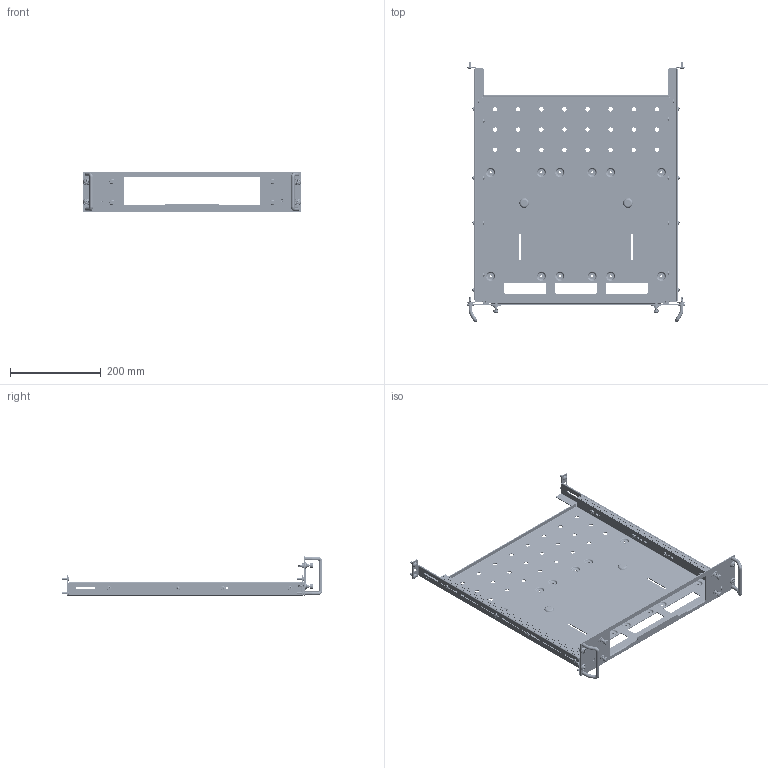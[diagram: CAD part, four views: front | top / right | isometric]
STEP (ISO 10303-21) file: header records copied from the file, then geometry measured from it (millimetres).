
FILE_DESCRIPTION((''),'2;1');
FILE_NAME('ASSY_KIT_RACKMOUNT_HH_FBL_ASM','2021-03-04T13:33:15',('mthomps2'),(''),'CREO PARAMETRIC BY PTC INC, 2019080','CREO PARAMETRIC BY PTC INC, 2019080','');
FILE_SCHEMA(('CONFIG_CONTROL_DESIGN','SHAPE_APPEARANCE_LAYERS_GROUPS'));
Length unit declared in the file: inch
Products named in the file (27): MODULE_RACKMOUNT_SKEL_FBL; BRKT_BASE2_RACKMOUNT_BENCH_FBL; FEX-832; BRKT_BASE_RACKMOUNT_BENCH_ASM; RACK_FACEPLATE_HANDHELD_FBL; CLS-632-2; RACK_FACEPLATE_HAND_HELD_FBL_ASM; FACEPLATE_WIRE_HOLE_COVER_FBL; PF31-632-30_FBL; FACEPLATE_WIRE_HOLE_COVER_FBL_ASM; HANDLE_OFFSET_FBL; SCREW_FH_8X32X375_PHIL_100; WASHER_FINISH; SCREW_OH_10-32X75_POZ_ST_ZI_LIB; BRKT_RACK_LEFT_FRONT_FBL; BRKT_RACK_LEFT_BACK_FBL; SLIDE_ACCURIDE_2601_18INCH_FBL; SLIDE_ACCURIDE_2601_18INCH_FBL_ASM; RACK_SLIDE_LEFT_ASSEM_FBL_ASM; BRKT_RACK_RIGHT_FRONT_FBL; BRKT_RACK_RIGHT_BACK_FBL; RACK_SLIDE_RIGHT_ASSEM_FBL_ASM; SCREW_TH_10-32X500_PHI_LIB; SPACER_RACK_EAR_PAS; SCREW_LOWPROF_BH_8-32X375_FBL; NUT_KEP_8-32X344_RACK_PAS; ASSY_KIT_RACKMOUNT_HH_FBL_ASM
Assembly tree (87 placements, depth 4):
  ASSY_KIT_RACKMOUNT_HH_FBL_ASM
    MODULE_RACKMOUNT_SKEL_FBL
    BRKT_BASE_RACKMOUNT_BENCH_ASM
      BRKT_BASE2_RACKMOUNT_BENCH_FBL
      FEX-832  x4
    RACK_FACEPLATE_HAND_HELD_FBL_ASM
      RACK_FACEPLATE_HANDHELD_FBL
      CLS-632-2  x4
    FACEPLATE_WIRE_HOLE_COVER_FBL_ASM  x2
      FACEPLATE_WIRE_HOLE_COVER_FBL
      PF31-632-30_FBL
    HANDLE_OFFSET_FBL  x2
    SCREW_FH_8X32X375_PHIL_100  x8
    WASHER_FINISH  x4
    SCREW_OH_10-32X75_POZ_ST_ZI_LIB  x4
    RACK_SLIDE_LEFT_ASSEM_FBL_ASM
      BRKT_RACK_LEFT_FRONT_FBL
      BRKT_RACK_LEFT_BACK_FBL
      SLIDE_ACCURIDE_2601_18INCH_FBL_ASM
        SLIDE_ACCURIDE_2601_18INCH_FBL
    RACK_SLIDE_RIGHT_ASSEM_FBL_ASM
      SLIDE_ACCURIDE_2601_18INCH_FBL_ASM
        SLIDE_ACCURIDE_2601_18INCH_FBL
      BRKT_RACK_RIGHT_FRONT_FBL
      BRKT_RACK_RIGHT_BACK_FBL
    SCREW_TH_10-32X500_PHI_LIB  x8
    SPACER_RACK_EAR_PAS  x2
    SCREW_LOWPROF_BH_8-32X375_FBL  x16
    NUT_KEP_8-32X344_RACK_PAS  x16
Bounding box: 480.26 x 573.53 x 87.48 mm (x, y, z)
Volume: 706830.3 mm3; surface area: 818701.5 mm2
Topology: 84 solids, 96 shells, 5048 faces, 13610 edges, 8874 vertices
Faces by surface type: cylinder 1999, plane 1941, cone 596, torus 316, bspline 172, sphere 24
Entity records: 106075 total; most frequent: CARTESIAN_POINT 37227, DIRECTION 9508, ORIENTED_EDGE 9455, PRESENTATION_STYLE_ASSIGNMENT 5399, STYLED_ITEM 5399, EDGE_CURVE 4735, CURVE_STYLE 3887, AXIS2_PLACEMENT_3D 3330
